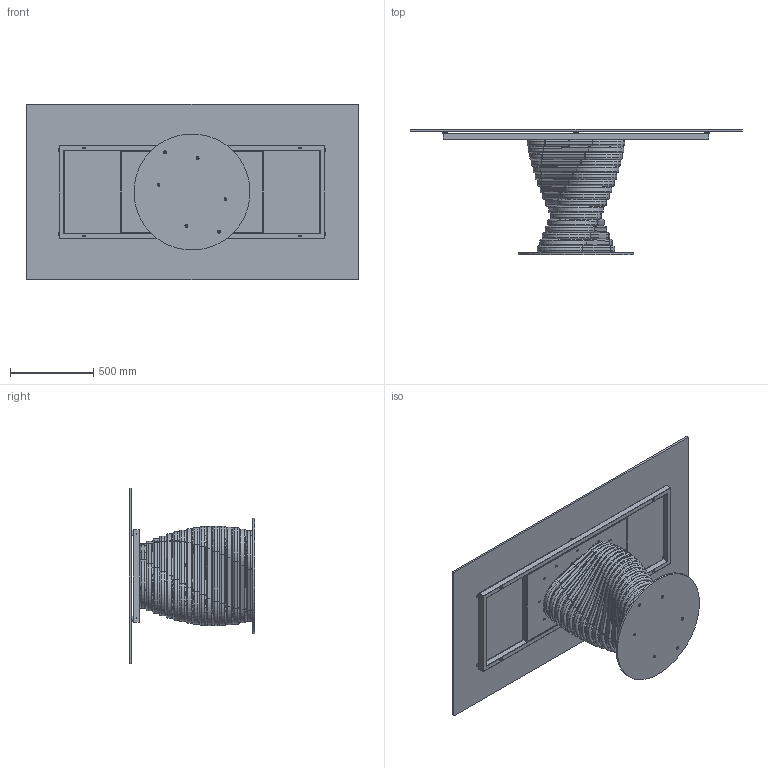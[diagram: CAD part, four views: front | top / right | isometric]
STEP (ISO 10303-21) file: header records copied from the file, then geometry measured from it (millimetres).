
FILE_DESCRIPTION (( 'STEP AP203' ), '1' );
FILE_NAME ('RO21G.STEP', '2024-08-07T13:40:15', ( '' ), ( '' ), 'SwSTEP 2.0', 'SolidWorks 2022', '' );
FILE_SCHEMA (( 'CONFIG_CONTROL_DESIGN' ));
Length unit declared in the file: millimetre
Products named in the file (15): ROBX00000-00-ROTOLO BASE 17 ANELLI; TTAV01-05-TELAIO UNIVERSALE X TAVOLI 180 240cm; ROBX00000SUP-00-Anello rotolo SUPERIORE_Default<A macchina>; COLLO TELAIO UNIVERSALE TTAV01 CON FERRAMENTA_MTG TOP CRISTALLO VERNICIATO-CERAMICA; rondella M8_8X24; TTAV01_02-05-VASSOIO IRRIGIDIMENTO TELAIO UNIVERSALE; M8xXXmm_hex_M8X20mm; TTAV01_01-05-TELAIO UNIVERSALE X TAVOLI 180 240cm; ROBX00000INF-00-Anello rotolo INFERIORE_Default<A macchina>; M8xXXmm_M8x20mm; RO21G; ROBX00000MED-00-Anello rotolo MEDIO_Default<A macchina>; C2XCRXX-00-Piani Rettangolari Cristallo_21 2000x1060; ROB200000-00-PIASTRA BASE_Ø70cm; 434070-00-PIEDINO TPV GOMMA NERO D. 30x8max18_filo estetico
Assembly tree (44 placements, depth 4):
  RO21G
    ROB200000-00-PIASTRA BASE_Ø70cm
    ROBX00000-00-ROTOLO BASE 17 ANELLI
      ROBX00000INF-00-Anello rotolo INFERIORE_Default<A macchina>
      ROBX00000MED-00-Anello rotolo MEDIO_Default<A macchina>  x15
      ROBX00000SUP-00-Anello rotolo SUPERIORE_Default<A macchina>
    M8xXXmm_hex_M8X20mm  x6
    COLLO TELAIO UNIVERSALE TTAV01 CON FERRAMENTA_MTG TOP CRISTALLO VERNICIATO-CERAMICA
      TTAV01-05-TELAIO UNIVERSALE X TAVOLI 180 240cm
        TTAV01_02-05-VASSOIO IRRIGIDIMENTO TELAIO UNIVERSALE
        TTAV01_01-05-TELAIO UNIVERSALE X TAVOLI 180 240cm
      434070-00-PIEDINO TPV GOMMA NERO D. 30x8max18_filo estetico  x6
    rondella M8_8X24  x4
    M8xXXmm_M8x20mm  x4
    C2XCRXX-00-Piani Rettangolari Cristallo_21 2000x1060
Bounding box: 2000 x 754 x 1060 mm (x, y, z)
Volume: 38637392.3 mm3; surface area: 12167044.9 mm2
Topology: 98 solids, 98 shells, 1496 faces, 3548 edges, 2222 vertices
Faces by surface type: plane 618, cylinder 550, torus 220, cone 100, sphere 8
Entity records: 20714 total; most frequent: CARTESIAN_POINT 4699, DIRECTION 2963, ORIENTED_EDGE 2736, EDGE_CURVE 1368, AXIS2_PLACEMENT_3D 1107, VERTEX_POINT 867, VECTOR 749, LINE 749
